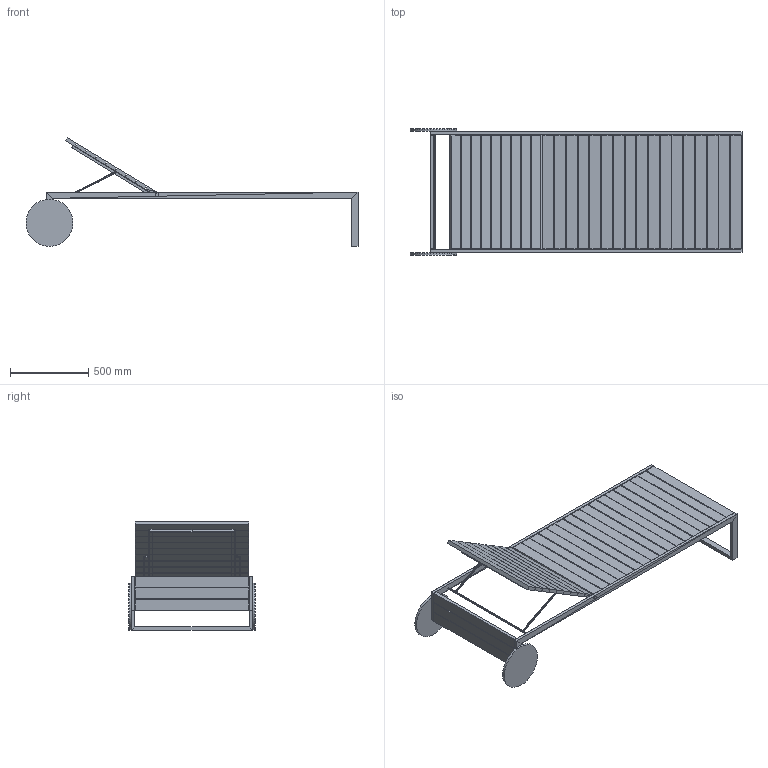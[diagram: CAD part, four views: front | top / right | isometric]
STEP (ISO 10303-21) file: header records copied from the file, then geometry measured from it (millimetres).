
FILE_DESCRIPTION(/* description */ (''),/* implementation_level */ '2;1');
FILE_NAME(/* name */ 'Garden_lounger.stp',/* time_stamp */ '2023-04-04T17:35:45+02:00',/* author */ ('TorbjörnMalm'),/* organization */ (''),/* preprocessor_version */ 'ST-DEVELOPER v19.2',/* originating_system */ 'Autodesk Inventor 2023',/* authorisation */ '');
FILE_SCHEMA (('AUTOMOTIVE_DESIGN { 1 0 10303 214 3 1 1 }'));
Length unit declared in the file: millimetre
Products named in the file (1): Garden_lounger
Bounding box: 2119.7 x 807 x 693.15 mm (x, y, z)
Volume: 5244526.7 mm3; surface area: 5217430.1 mm2
Topology: 7 solids, 38 shells, 600 faces, 1212 edges, 689 vertices
Faces by surface type: plane 600
Entity records: 15424 total; most frequent: CARTESIAN_POINT 2502, ORIENTED_EDGE 2424, DIRECTION 2414, LINE 1212, VECTOR 1212, EDGE_CURVE 1212, VERTEX_POINT 688, AXIS2_PLACEMENT_3D 601
